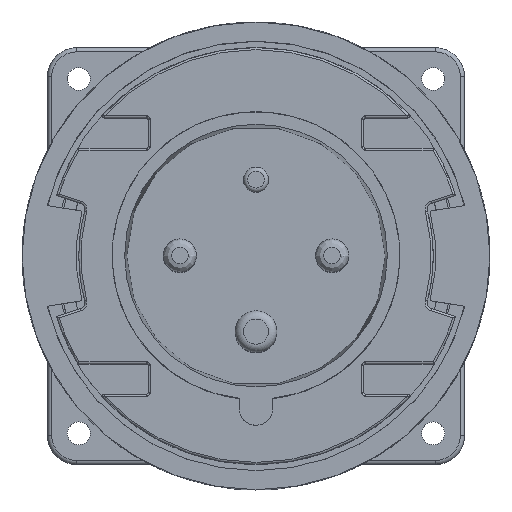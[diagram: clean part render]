
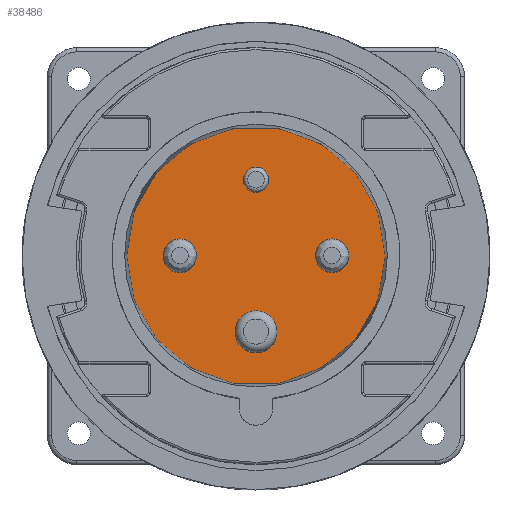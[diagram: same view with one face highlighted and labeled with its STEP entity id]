
A CAD part, top view. The second image highlights one B-rep face of the part: STEP entity #38486.
In plain terms, the highlighted planar face has unit normal (0, 0, 1).
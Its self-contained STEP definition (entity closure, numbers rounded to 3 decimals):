
#38486 = ADVANCED_FACE('',(#38487),#38525,.T.);
#38487 = FACE_BOUND('',#38488,.T.);
#38488 = EDGE_LOOP('',(#38489,#38500,#38509,#38518));
#38489 = ORIENTED_EDGE('',*,*,#38490,.F.);
#38490 = EDGE_CURVE('',#38491,#38493,#38495,.T.);
#38491 = VERTEX_POINT('',#38492);
#38492 = CARTESIAN_POINT('',(0.,31.,0.));
#38493 = VERTEX_POINT('',#38494);
#38494 = CARTESIAN_POINT('',(31.,0.,0.));
#38495 = CIRCLE('',#38496,31.);
#38496 = AXIS2_PLACEMENT_3D('',#38497,#38498,#38499);
#38497 = CARTESIAN_POINT('',(0.,0.,0.));
#38498 = DIRECTION('',(0.,0.,-1.));
#38499 = DIRECTION('',(0.,1.,0.));
#38500 = ORIENTED_EDGE('',*,*,#38501,.F.);
#38501 = EDGE_CURVE('',#38502,#38491,#38504,.T.);
#38502 = VERTEX_POINT('',#38503);
#38503 = CARTESIAN_POINT('',(-31.,0.,0.));
#38504 = CIRCLE('',#38505,31.);
#38505 = AXIS2_PLACEMENT_3D('',#38506,#38507,#38508);
#38506 = CARTESIAN_POINT('',(0.,0.,0.));
#38507 = DIRECTION('',(0.,0.,-1.));
#38508 = DIRECTION('',(-1.,0.,0.));
#38509 = ORIENTED_EDGE('',*,*,#38510,.F.);
#38510 = EDGE_CURVE('',#38511,#38502,#38513,.T.);
#38511 = VERTEX_POINT('',#38512);
#38512 = CARTESIAN_POINT('',(0.,-31.,0.));
#38513 = CIRCLE('',#38514,31.);
#38514 = AXIS2_PLACEMENT_3D('',#38515,#38516,#38517);
#38515 = CARTESIAN_POINT('',(0.,0.,0.));
#38516 = DIRECTION('',(0.,0.,-1.));
#38517 = DIRECTION('',(0.,-1.,0.));
#38518 = ORIENTED_EDGE('',*,*,#38519,.F.);
#38519 = EDGE_CURVE('',#38493,#38511,#38520,.T.);
#38520 = CIRCLE('',#38521,31.);
#38521 = AXIS2_PLACEMENT_3D('',#38522,#38523,#38524);
#38522 = CARTESIAN_POINT('',(0.,0.,0.));
#38523 = DIRECTION('',(0.,0.,-1.));
#38524 = DIRECTION('',(1.,0.,0.));
#38525 = PLANE('',#38526);
#38526 = AXIS2_PLACEMENT_3D('',#38527,#38528,#38529);
#38527 = CARTESIAN_POINT('',(0.,0.,0.));
#38528 = DIRECTION('',(0.,0.,1.));
#38529 = DIRECTION('',(-1.,0.,0.));
